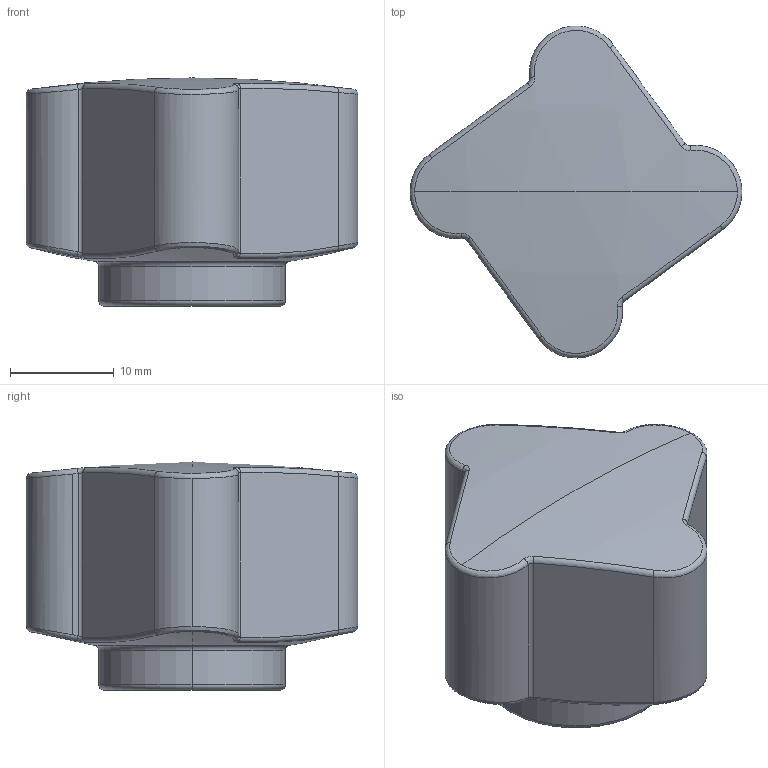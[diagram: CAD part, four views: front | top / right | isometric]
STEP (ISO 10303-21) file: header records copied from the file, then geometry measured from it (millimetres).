
FILE_DESCRIPTION (( 'STEP AP214' ), '1' );
FILE_NAME ('1120 32 306.STEP', '2010-11-26T15:28:34', ( 'Marc' ), ( '' ), 'SwSTEP 2.0', 'SolidWorks 2010', '' );
FILE_SCHEMA (( 'AUTOMOTIVE_DESIGN' ));
Length unit declared in the file: millimetre
Products named in the file (1): 1120 32 306
Bounding box: 32 x 32 x 22 mm (x, y, z)
Volume: 10457.5 mm3; surface area: 3872 mm2
Topology: 2 solids, 2 shells, 64 faces, 145 edges, 83 vertices
Faces by surface type: cylinder 19, bspline 16, torus 12, plane 7, cone 6, sphere 4
Entity records: 5459 total; most frequent: CARTESIAN_POINT 3976, ORIENTED_EDGE 282, DIRECTION 267, EDGE_CURVE 141, AXIS2_PLACEMENT_3D 119, VERTEX_POINT 83, CIRCLE 70, EDGE_LOOP 66
